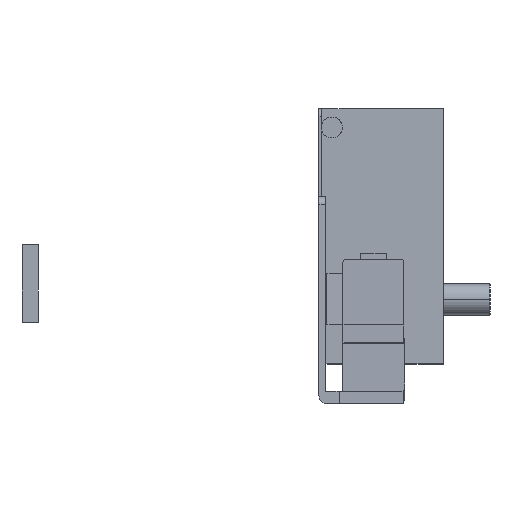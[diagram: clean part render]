
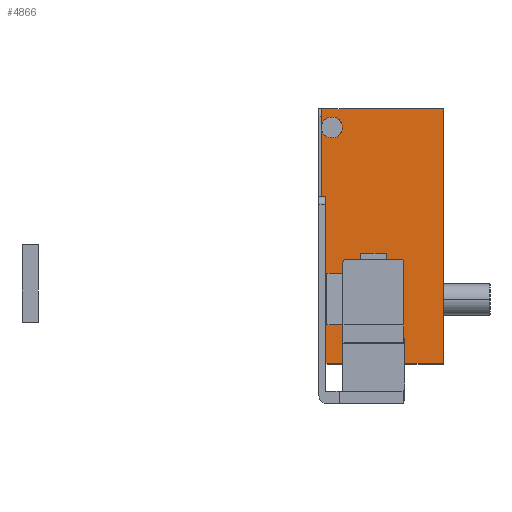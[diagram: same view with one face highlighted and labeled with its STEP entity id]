
A CAD part, front view. The second image highlights one B-rep face of the part: STEP entity #4866.
In plain terms, the highlighted planar face has unit normal (0, -1, 0.007).
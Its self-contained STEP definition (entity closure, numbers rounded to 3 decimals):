
#111 = DIRECTION ( 'NONE',  ( 0., 0.007, 1. ) ) ;
#112 = CARTESIAN_POINT ( 'NONE',  ( 7.25, 571.005, -16.916 ) ) ;
#113 = DIRECTION ( 'NONE',  ( 0., 0.007, 1. ) ) ;
#116 = CARTESIAN_POINT ( 'NONE',  ( 26.75, 571.005, -16.916 ) ) ;
#132 =( BOUNDED_CURVE ( )  B_SPLINE_CURVE ( 3, ( #964, #965, #966, #967 ),
 .UNSPECIFIED., .F., .T. ) 
 B_SPLINE_CURVE_WITH_KNOTS ( ( 4, 4 ),
 ( 3.142, 4.712 ),
 .UNSPECIFIED. ) 
 CURVE ( )  GEOMETRIC_REPRESENTATION_ITEM ( )  RATIONAL_B_SPLINE_CURVE ( ( 1., 0.805, 0.805, 1. ) ) 
 REPRESENTATION_ITEM ( '' )  );
#139 =( BOUNDED_CURVE ( )  B_SPLINE_CURVE ( 3, ( #968, #969, #970, #971 ),
 .UNSPECIFIED., .F., .F. ) 
 B_SPLINE_CURVE_WITH_KNOTS ( ( 4, 4 ),
 ( 4.712, 6.283 ),
 .UNSPECIFIED. ) 
 CURVE ( )  GEOMETRIC_REPRESENTATION_ITEM ( )  RATIONAL_B_SPLINE_CURVE ( ( 1., 0.805, 0.805, 1. ) ) 
 REPRESENTATION_ITEM ( '' )  );
#277 = CARTESIAN_POINT ( 'NONE',  ( 8.25, 570.905, -31.773 ) ) ;
#293 = CARTESIAN_POINT ( 'NONE',  ( 26.75, 570.898, -32.773 ) ) ;
#338 = CARTESIAN_POINT ( 'NONE',  ( 7.25, 570.898, -32.773 ) ) ;
#369 = CARTESIAN_POINT ( 'NONE',  ( 38.8, 570.87, -36.999 ) ) ;
#964 = CARTESIAN_POINT ( 'NONE',  ( 25.75, 570.905, -31.773 ) ) ;
#965 = CARTESIAN_POINT ( 'NONE',  ( 26.336, 570.905, -31.773 ) ) ;
#966 = CARTESIAN_POINT ( 'NONE',  ( 26.75, 570.902, -32.187 ) ) ;
#967 = CARTESIAN_POINT ( 'NONE',  ( 26.75, 570.898, -32.773 ) ) ;
#968 = CARTESIAN_POINT ( 'NONE',  ( 7.25, 570.898, -32.773 ) ) ;
#969 = CARTESIAN_POINT ( 'NONE',  ( 7.25, 570.902, -32.187 ) ) ;
#970 = CARTESIAN_POINT ( 'NONE',  ( 7.664, 570.905, -31.773 ) ) ;
#971 = CARTESIAN_POINT ( 'NONE',  ( 8.25, 570.905, -31.773 ) ) ;
#974 = CARTESIAN_POINT ( 'NONE',  ( 8., 570.803, -46.961 ) ) ;
#975 = DIRECTION ( 'NONE',  ( 0., -0.007, -1. ) ) ;
#976 = CARTESIAN_POINT ( 'NONE',  ( 2.5, 570.951, -24.961 ) ) ;
#977 = DIRECTION ( 'NONE',  ( -1., 0., 0. ) ) ;
#978 = CARTESIAN_POINT ( 'NONE',  ( 0., 570.803, -46.961 ) ) ;
#979 = DIRECTION ( 'NONE',  ( 0., 0.007, 1. ) ) ;
#980 = CARTESIAN_POINT ( 'NONE',  ( 7.25, 570.87, -36.999 ) ) ;
#981 = DIRECTION ( 'NONE',  ( 1., 0., 0. ) ) ;
#982 = CARTESIAN_POINT ( 'NONE',  ( 38.8, 570.87, -36.999 ) ) ;
#983 = DIRECTION ( 'NONE',  ( 1., 0., 0. ) ) ;
#984 = CARTESIAN_POINT ( 'NONE',  ( 38.8, 571.402, 42.394 ) ) ;
#985 = DIRECTION ( 'NONE',  ( -1., 0., 0. ) ) ;
#986 = CARTESIAN_POINT ( 'NONE',  ( 0., 570.803, -46.961 ) ) ;
#987 = DIRECTION ( 'NONE',  ( 0., 0.007, 1. ) ) ;
#988 = CARTESIAN_POINT ( 'NONE',  ( 2.5, 571.058, -8.961 ) ) ;
#989 = DIRECTION ( 'NONE',  ( -1., 0., 0. ) ) ;
#1361 = PLANE ( 'NONE',  #2473 ) ;
#1362 = CARTESIAN_POINT ( 'NONE',  ( 38.8, 570.803, -46.961 ) ) ;
#1363 = DIRECTION ( 'NONE',  ( 0., -1., 0.007 ) ) ;
#1364 = DIRECTION ( 'NONE',  ( 0., 0.007, 1. ) ) ;
#1668 = CARTESIAN_POINT ( 'NONE',  ( 26.75, 570.87, -36.999 ) ) ;
#1687 = CARTESIAN_POINT ( 'NONE',  ( 0., 570.951, -24.961 ) ) ;
#1688 = CARTESIAN_POINT ( 'NONE',  ( 8., 570.951, -24.961 ) ) ;
#1689 = CARTESIAN_POINT ( 'NONE',  ( 8., 571.058, -8.961 ) ) ;
#1692 = CARTESIAN_POINT ( 'NONE',  ( 0., 571.402, 42.394 ) ) ;
#1708 = CARTESIAN_POINT ( 'NONE',  ( 0., 570.87, -36.999 ) ) ;
#1709 = CARTESIAN_POINT ( 'NONE',  ( 0., 571.058, -8.961 ) ) ;
#1718 = CARTESIAN_POINT ( 'NONE',  ( 7.25, 570.87, -36.999 ) ) ;
#1758 = CARTESIAN_POINT ( 'NONE',  ( 38.8, 571.402, 42.394 ) ) ;
#1770 = CARTESIAN_POINT ( 'NONE',  ( 25.75, 570.905, -31.773 ) ) ;
#1781 = ORIENTED_EDGE ( 'NONE', *, *, #2230, .F. ) ;
#1782 = ORIENTED_EDGE ( 'NONE', *, *, #2229, .F. ) ;
#1812 = EDGE_CURVE ( 'NONE', #5171, #5216, #3361, .T. ) ;
#1823 = EDGE_CURVE ( 'NONE', #5308, #5159, #3381, .T. ) ;
#1991 = EDGE_CURVE ( 'NONE', #5037, #5232, #3668, .T. ) ;
#1997 = EDGE_CURVE ( 'NONE', #5119, #5277, #3677, .T. ) ;
#2220 = EDGE_CURVE ( 'NONE', #5171, #5232, #132, .T. ) ;
#2221 = EDGE_CURVE ( 'NONE', #5277, #5216, #139, .T. ) ;
#2223 = EDGE_CURVE ( 'NONE', #5090, #5089, #4050, .T. ) ;
#2224 = EDGE_CURVE ( 'NONE', #5089, #5088, #4052, .T. ) ;
#2225 = EDGE_CURVE ( 'NONE', #5109, #5088, #4054, .T. ) ;
#2226 = EDGE_CURVE ( 'NONE', #5109, #5119, #4056, .T. ) ;
#2227 = EDGE_CURVE ( 'NONE', #5037, #5308, #4058, .T. ) ;
#2228 = EDGE_CURVE ( 'NONE', #5159, #5093, #4060, .T. ) ;
#2229 = EDGE_CURVE ( 'NONE', #5110, #5093, #4062, .T. ) ;
#2230 = EDGE_CURVE ( 'NONE', #5090, #5110, #4064, .T. ) ;
#2473 = AXIS2_PLACEMENT_3D ( 'NONE', #1362, #1363, #1364 ) ;
#3181 = EDGE_LOOP ( 'NONE', ( #4424, #4423, #4422, #4421, #4420, #4419, #4418, #4417, #4416, #4415, #4414, #4413, #1782, #1781 ) ) ;
#3361 = LINE ( 'NONE', #5083, #3362 ) ;
#3362 = VECTOR ( 'NONE', #5082, 1000. ) ;
#3381 = LINE ( 'NONE', #5059, #3382 ) ;
#3382 = VECTOR ( 'NONE', #5057, 1000. ) ;
#3668 = LINE ( 'NONE', #116, #3669 ) ;
#3669 = VECTOR ( 'NONE', #113, 1000. ) ;
#3677 = LINE ( 'NONE', #112, #3679 ) ;
#3679 = VECTOR ( 'NONE', #111, 1000. ) ;
#4050 = LINE ( 'NONE', #974, #4051 ) ;
#4051 = VECTOR ( 'NONE', #975, 1000. ) ;
#4052 = LINE ( 'NONE', #976, #4053 ) ;
#4053 = VECTOR ( 'NONE', #977, 1000. ) ;
#4054 = LINE ( 'NONE', #978, #4055 ) ;
#4055 = VECTOR ( 'NONE', #979, 1000. ) ;
#4056 = LINE ( 'NONE', #980, #4057 ) ;
#4057 = VECTOR ( 'NONE', #981, 1000. ) ;
#4058 = LINE ( 'NONE', #982, #4059 ) ;
#4059 = VECTOR ( 'NONE', #983, 1000. ) ;
#4060 = LINE ( 'NONE', #984, #4061 ) ;
#4061 = VECTOR ( 'NONE', #985, 1000. ) ;
#4062 = LINE ( 'NONE', #986, #4063 ) ;
#4063 = VECTOR ( 'NONE', #987, 1000. ) ;
#4064 = LINE ( 'NONE', #988, #4065 ) ;
#4065 = VECTOR ( 'NONE', #989, 1000. ) ;
#4272 = FACE_OUTER_BOUND ( 'NONE', #3181, .T. ) ;
#4413 = ORIENTED_EDGE ( 'NONE', *, *, #2228, .T. ) ;
#4414 = ORIENTED_EDGE ( 'NONE', *, *, #1823, .T. ) ;
#4415 = ORIENTED_EDGE ( 'NONE', *, *, #2227, .T. ) ;
#4416 = ORIENTED_EDGE ( 'NONE', *, *, #1991, .F. ) ;
#4417 = ORIENTED_EDGE ( 'NONE', *, *, #2220, .T. ) ;
#4418 = ORIENTED_EDGE ( 'NONE', *, *, #1812, .F. ) ;
#4419 = ORIENTED_EDGE ( 'NONE', *, *, #2221, .T. ) ;
#4420 = ORIENTED_EDGE ( 'NONE', *, *, #1997, .T. ) ;
#4421 = ORIENTED_EDGE ( 'NONE', *, *, #2226, .T. ) ;
#4422 = ORIENTED_EDGE ( 'NONE', *, *, #2225, .F. ) ;
#4423 = ORIENTED_EDGE ( 'NONE', *, *, #2224, .T. ) ;
#4424 = ORIENTED_EDGE ( 'NONE', *, *, #2223, .T. ) ;
#4866 = ADVANCED_FACE ( 'NONE', ( #4272 ), #1361, .T. ) ;
#5037 = VERTEX_POINT ( 'NONE', #1668 ) ;
#5057 = DIRECTION ( 'NONE',  ( 0., 0.007, 1. ) ) ;
#5059 = CARTESIAN_POINT ( 'NONE',  ( 38.8, 570.803, -46.961 ) ) ;
#5082 = DIRECTION ( 'NONE',  ( -1., 0., 0. ) ) ;
#5083 = CARTESIAN_POINT ( 'NONE',  ( 26.75, 570.905, -31.773 ) ) ;
#5088 = VERTEX_POINT ( 'NONE', #1687 ) ;
#5089 = VERTEX_POINT ( 'NONE', #1688 ) ;
#5090 = VERTEX_POINT ( 'NONE', #1689 ) ;
#5093 = VERTEX_POINT ( 'NONE', #1692 ) ;
#5109 = VERTEX_POINT ( 'NONE', #1708 ) ;
#5110 = VERTEX_POINT ( 'NONE', #1709 ) ;
#5119 = VERTEX_POINT ( 'NONE', #1718 ) ;
#5159 = VERTEX_POINT ( 'NONE', #1758 ) ;
#5171 = VERTEX_POINT ( 'NONE', #1770 ) ;
#5216 = VERTEX_POINT ( 'NONE', #277 ) ;
#5232 = VERTEX_POINT ( 'NONE', #293 ) ;
#5277 = VERTEX_POINT ( 'NONE', #338 ) ;
#5308 = VERTEX_POINT ( 'NONE', #369 ) ;
